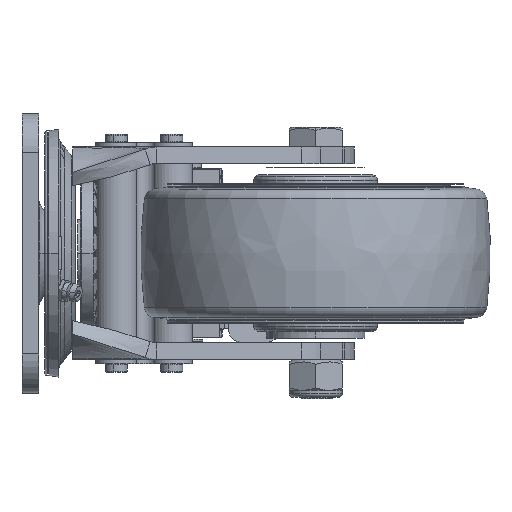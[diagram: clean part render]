
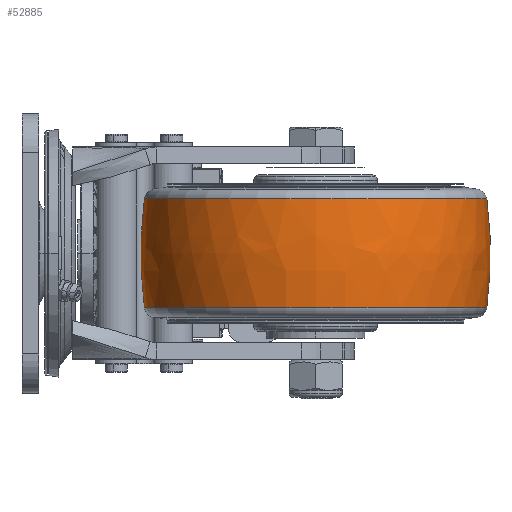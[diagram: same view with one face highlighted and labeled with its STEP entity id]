
A CAD part, left-side view. The second image highlights one B-rep face of the part: STEP entity #52885.
In plain terms, the highlighted free-form (B-spline) face has degree [3, 3] with [7, 4] control points.
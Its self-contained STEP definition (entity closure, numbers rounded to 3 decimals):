
#52189=CARTESIAN_POINT('',(30.,-103.5,-19.452));
#52190=DIRECTION('',(0.,0.,-1.));
#52191=DIRECTION('',(0.,-1.,0.));
#52192=AXIS2_PLACEMENT_3D('',#52189,#52190,#52191);
#52194=CARTESIAN_POINT('',(30.,-103.5,19.452));
#52195=DIRECTION('',(0.,0.,-1.));
#52196=DIRECTION('',(0.,-1.,0.));
#52197=AXIS2_PLACEMENT_3D('',#52194,#52195,#52196);
#52209=CARTESIAN_POINT('',(30.,-16.,0.));
#52210=DIRECTION('',(-1.,0.,0.));
#52211=DIRECTION('',(0.,-0.992,-0.13));
#52212=AXIS2_PLACEMENT_3D('',#52209,#52210,#52211);
#52214=CARTESIAN_POINT('',(30.,-191.,0.));
#52215=DIRECTION('',(1.,0.,0.));
#52216=DIRECTION('',(0.,0.992,-0.13));
#52217=AXIS2_PLACEMENT_3D('',#52214,#52215,#52216);
#52295=CARTESIAN_POINT('',(30.,-164.733,-19.452));
#52296=CARTESIAN_POINT('',(30.,-164.733,19.452));
#52297=VERTEX_POINT('',#52295);
#52298=VERTEX_POINT('',#52296);
#52299=CARTESIAN_POINT('',(30.,-42.267,-19.452));
#52300=CARTESIAN_POINT('',(30.,-42.267,19.452));
#52301=VERTEX_POINT('',#52299);
#52302=VERTEX_POINT('',#52300);
#52847=CARTESIAN_POINT('',(33.838,-164.509,
20.226));
#52848=CARTESIAN_POINT('',(33.953,-166.335,
6.783));
#52849=CARTESIAN_POINT('',(33.953,-166.335,
-6.783));
#52850=CARTESIAN_POINT('',(33.838,-164.509,
-20.226));
#52851=CARTESIAN_POINT('',(-3.707,-166.872,
20.226));
#52852=CARTESIAN_POINT('',(-4.715,-168.768,
6.783));
#52853=CARTESIAN_POINT('',(-4.715,-168.768,
-6.783));
#52854=CARTESIAN_POINT('',(-3.707,-166.872,
-20.226));
#52855=CARTESIAN_POINT('',(-31.13,-141.119,
20.226));
#52856=CARTESIAN_POINT('',(-32.959,-142.245,
6.783));
#52857=CARTESIAN_POINT('',(-32.959,-142.245,
-6.783));
#52858=CARTESIAN_POINT('',(-31.13,-141.119,
-20.226));
#52859=CARTESIAN_POINT('',(-31.13,-103.5,20.226));
#52860=CARTESIAN_POINT('',(-32.959,-103.5,6.783));
#52861=CARTESIAN_POINT('',(-32.959,-103.5,-6.783));
#52862=CARTESIAN_POINT('',(-31.13,-103.5,-20.226));
#52863=CARTESIAN_POINT('',(-31.13,-65.881,
20.226));
#52864=CARTESIAN_POINT('',(-32.959,-64.755,
6.783));
#52865=CARTESIAN_POINT('',(-32.959,-64.755,
-6.783));
#52866=CARTESIAN_POINT('',(-31.13,-65.881,
-20.226));
#52867=CARTESIAN_POINT('',(-3.707,-40.128,
20.226));
#52868=CARTESIAN_POINT('',(-4.715,-38.232,
6.783));
#52869=CARTESIAN_POINT('',(-4.715,-38.232,
-6.783));
#52870=CARTESIAN_POINT('',(-3.707,-40.128,
-20.226));
#52871=CARTESIAN_POINT('',(33.838,-42.491,
20.226));
#52872=CARTESIAN_POINT('',(33.953,-40.665,
6.783));
#52873=CARTESIAN_POINT('',(33.953,-40.665,
-6.783));
#52874=CARTESIAN_POINT('',(33.838,-42.491,
-20.226));
#52875=(BOUNDED_SURFACE()B_SPLINE_SURFACE(3,3,((#52847,#52848,#52849,#52850),(
#52851,#52852,#52853,#52854),(#52855,#52856,#52857,#52858),(#52859,#52860,
#52861,#52862),(#52863,#52864,#52865,#52866),(#52867,#52868,#52869,#52870),(
#52871,#52872,#52873,#52874)),.UNSPECIFIED.,.F.,.F.,.F.)B_SPLINE_SURFACE_WITH_KNOTS((4,3,4),(4,4),(0.,1.,2.),(0.,1.),.UNSPECIFIED.)GEOMETRIC_REPRESENTATION_ITEM()RATIONAL_B_SPLINE_SURFACE(((1.193,1.185,
1.185,1.193),(0.942,0.936,
0.936,0.942),(0.942,0.936,
0.936,0.942),(1.193,1.185,
1.185,1.193),(0.942,0.936,
0.936,0.942),(0.942,0.936,
0.936,0.942),(1.193,1.185,
1.185,1.193)))REPRESENTATION_ITEM('')SURFACE());
#52877=ORIENTED_EDGE('',*,*,#52876,.F.);
#52878=ORIENTED_EDGE('',*,*,#52833,.T.);
#52880=ORIENTED_EDGE('',*,*,#52879,.T.);
#52882=ORIENTED_EDGE('',*,*,#52881,.F.);
#52883=EDGE_LOOP('',(#52877,#52878,#52880,#52882));
#52884=FACE_OUTER_BOUND('',#52883,.F.);
#52193=CIRCLE('',#52192,61.233);
#52198=CIRCLE('',#52197,61.233);
#52213=CIRCLE('',#52212,150.);
#52218=CIRCLE('',#52217,150.);
#52833=EDGE_CURVE('',#52297,#52301,#52193,.T.);
#52876=EDGE_CURVE('',#52297,#52298,#52213,.T.);
#52879=EDGE_CURVE('',#52301,#52302,#52218,.T.);
#52881=EDGE_CURVE('',#52298,#52302,#52198,.T.);
#52885=ADVANCED_FACE('',(#52884),#52875,.T.);
